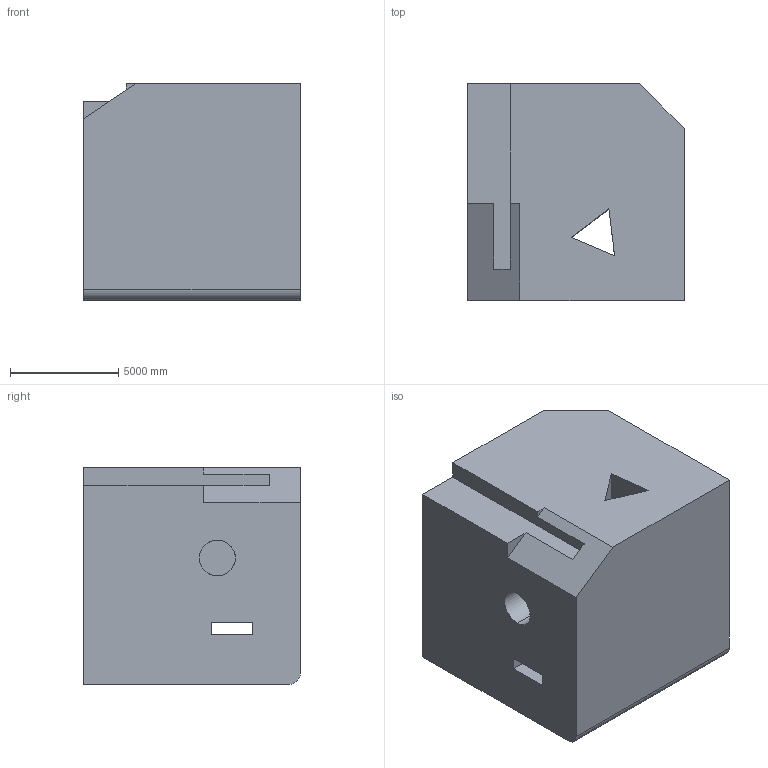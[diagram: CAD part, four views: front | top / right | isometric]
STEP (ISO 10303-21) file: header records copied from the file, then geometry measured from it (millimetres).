
FILE_DESCRIPTION (( 'STEP AP203' ), '1' );
FILE_NAME ('167.STEP', '2022-09-06T12:37:52', ( 'user' ), ( '' ), 'SwSTEP 2.0', 'SolidWorks 2021', '' );
FILE_SCHEMA (( 'CONFIG_CONTROL_DESIGN' ));
Length unit declared in the file: centimetre
Products named in the file (1): 167
Bounding box: 10000 x 10000 x 10000 mm (x, y, z)
Volume: 910755898456 mm3; surface area: 715598254.9 mm2
Topology: 1 solids, 1 shells, 29 faces, 87 edges, 58 vertices
Faces by surface type: plane 25, cylinder 4
Entity records: 1060 total; most frequent: CARTESIAN_POINT 193, ORIENTED_EDGE 174, DIRECTION 147, EDGE_CURVE 87, VECTOR 75, LINE 75, VERTEX_POINT 58, AXIS2_PLACEMENT_3D 36
